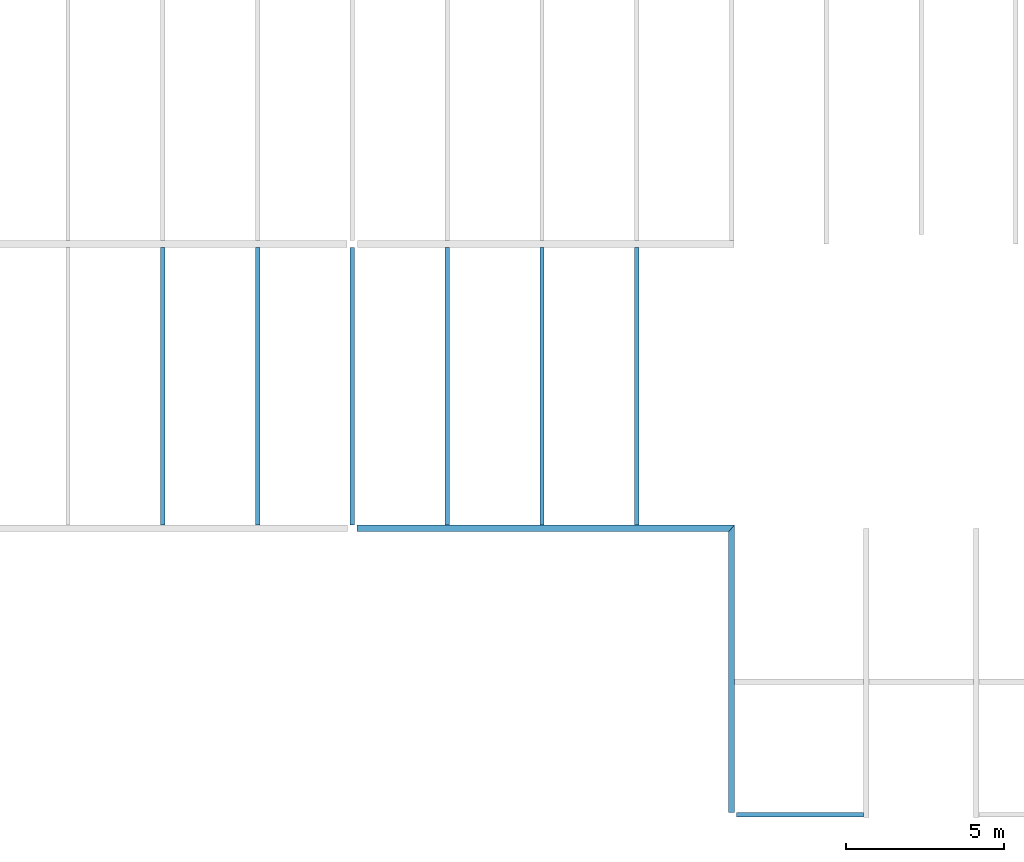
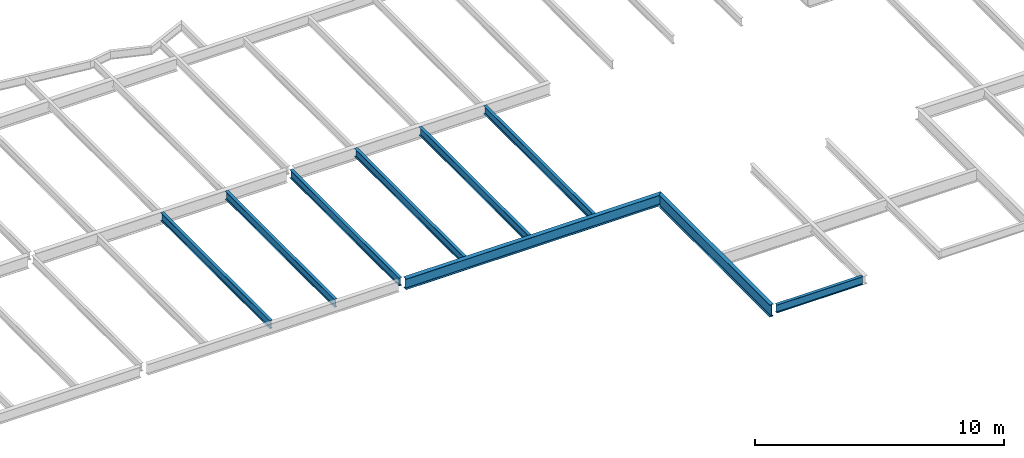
# One storey, part 6 of 21: 9 beams.
"""IFC2X3 building model written with IfcOpenShell, lengths in millimetres."""

from ifc_helpers import new_model, si_unit, origin, place, context, project, spatial, faceted_brep, material, element, save


model = new_model("IFC2X3")

# Units and contexts
context_of_model = context(None, 3, precision=1e-05, world=origin())
ifc_project = project(units=[si_unit("LENGTHUNIT", "METRE", prefix="MILLI")], contexts=[context_of_model])

# Building, storey
building = spatial("IfcBuilding", under=ifc_project, Name="Building", CompositionType="ELEMENT")
storey = spatial("IfcBuildingStorey", under=building, Name="FL3-FRM", CompositionType="ELEMENT")

# Beams
ifc_material_1 = material(Name="A992")
beam_1_placement = place(None, origin())
element("IfcBeam", 1, at=beam_1_placement, inside=storey, material=ifc_material_1, Name="B428", context=context_of_model, shape_type="Brep", body=[
    faceted_brep([(-2930.0, 18104.5, 8474.0), (-3070.0, 18104.5, 8474.0), (-3070.0, 26885.5, 8474.0), (-2930.0, 26885.5, 8474.0), (-3070.0, 18104.5, 8482.8), (-3070.0, 26885.5, 8482.8), (-3013.4, 18104.5, 8482.8), (-3013.4, 26885.5, 8482.8), (-3010.76, 18104.5, 8483.15), (-3010.76, 26885.5, 8483.15), (-3008.3, 18104.5, 8484.17), (-3008.3, 26885.5, 8484.17), (-3006.19, 18104.5, 8485.79), (-3006.19, 26885.5, 8485.79), (-3004.57, 18104.5, 8487.9), (-3004.57, 26885.5, 8487.9), (-3003.55, 18104.5, 8490.36), (-3003.55, 26885.5, 8490.36), (-3003.2, 18104.5, 8493.0), (-3003.2, 26885.5, 8493.0), (-3003.2, 18104.5, 8854.0), (-3003.2, 26885.5, 8854.0), (-3003.55, 18104.5, 8856.64), (-3003.55, 26885.5, 8856.64), (-3004.57, 18104.5, 8859.1), (-3004.57, 26885.5, 8859.1), (-3006.19, 18104.5, 8861.21), (-3006.19, 26885.5, 8861.21), (-3008.3, 18104.5, 8862.83), (-3008.3, 26885.5, 8862.83), (-3010.76, 18104.5, 8863.85), (-3010.76, 26885.5, 8863.85), (-3013.4, 18104.5, 8864.2), (-3013.4, 26885.5, 8864.2), (-3070.0, 18104.5, 8864.2), (-3070.0, 26885.5, 8864.2), (-3070.0, 18104.5, 8873.0), (-3070.0, 26885.5, 8873.0), (-2930.0, 18104.5, 8873.0), (-2930.0, 26885.5, 8873.0), (-2930.0, 18104.5, 8864.2), (-2930.0, 26885.5, 8864.2), (-2986.6, 18104.5, 8864.2), (-2986.6, 26885.5, 8864.2), (-2989.24, 18104.5, 8863.85), (-2989.24, 26885.5, 8863.85), (-2991.7, 18104.5, 8862.83), (-2991.7, 26885.5, 8862.83), (-2993.81, 18104.5, 8861.21), (-2993.81, 26885.5, 8861.21), (-2995.43, 18104.5, 8859.1), (-2995.43, 26885.5, 8859.1), (-2996.45, 18104.5, 8856.64), (-2996.45, 26885.5, 8856.64), (-2996.8, 18104.5, 8854.0), (-2996.8, 26885.5, 8854.0), (-2996.8, 18104.5, 8493.0), (-2996.8, 26885.5, 8493.0), (-2996.45, 18104.5, 8490.36), (-2996.45, 26885.5, 8490.36), (-2995.43, 18104.5, 8487.9), (-2995.43, 26885.5, 8487.9), (-2993.81, 18104.5, 8485.79), (-2993.81, 26885.5, 8485.79), (-2991.7, 18104.5, 8484.17), (-2991.7, 26885.5, 8484.17), (-2989.24, 18104.5, 8483.15), (-2989.24, 26885.5, 8483.15), (-2986.6, 18104.5, 8482.8), (-2986.6, 26885.5, 8482.8), (-2930.0, 18104.5, 8482.8), (-2930.0, 26885.5, 8482.8)], [[[0, 1, 2, 3]], [[1, 4, 5, 2]], [[4, 6, 7, 5]], [[6, 8, 9, 7]], [[8, 10, 11, 9]], [[10, 12, 13, 11]], [[12, 14, 15, 13]], [[14, 16, 17, 15]], [[16, 18, 19, 17]], [[18, 20, 21, 19]], [[20, 22, 23, 21]], [[22, 24, 25, 23]], [[24, 26, 27, 25]], [[26, 28, 29, 27]], [[28, 30, 31, 29]], [[30, 32, 33, 31]], [[32, 34, 35, 33]], [[34, 36, 37, 35]], [[36, 38, 39, 37]], [[38, 40, 41, 39]], [[40, 42, 43, 41]], [[42, 44, 45, 43]], [[44, 46, 47, 45]], [[46, 48, 49, 47]], [[48, 50, 51, 49]], [[50, 52, 53, 51]], [[52, 54, 55, 53]], [[54, 56, 57, 55]], [[56, 58, 59, 57]], [[58, 60, 61, 59]], [[60, 62, 63, 61]], [[62, 64, 65, 63]], [[64, 66, 67, 65]], [[66, 68, 69, 67]], [[68, 70, 71, 69]], [[70, 0, 3, 71]], [[0, 70, 68, 66, 64, 62, 60, 58, 56, 54, 52, 50, 48, 46, 44, 42, 40, 38, 36, 34, 32, 30, 28, 26, 24, 22, 20, 18, 16, 14, 12, 10, 8, 6, 4, 1]], [[3, 2, 5, 7, 9, 11, 13, 15, 17, 19, 21, 23, 25, 27, 29, 31, 33, 35, 37, 39, 41, 43, 45, 47, 49, 51, 53, 55, 57, 59, 61, 63, 65, 67, 69, 71]]]),
])
ifc_material_2 = material(Name="A992")
beam_2_placement = place(None, origin())
element("IfcBeam", 2, at=beam_2_placement, inside=storey, material=ifc_material_2, Name="B429", context=context_of_model, shape_type="Brep", body=[
    faceted_brep([(-5930.0, 18104.5, 8474.0), (-6070.0, 18104.5, 8474.0), (-6070.0, 26885.5, 8474.0), (-5930.0, 26885.5, 8474.0), (-6070.0, 18104.5, 8482.8), (-6070.0, 26885.5, 8482.8), (-6013.4, 18104.5, 8482.8), (-6013.4, 26885.5, 8482.8), (-6010.76, 18104.5, 8483.15), (-6010.76, 26885.5, 8483.15), (-6008.3, 18104.5, 8484.17), (-6008.3, 26885.5, 8484.17), (-6006.19, 18104.5, 8485.79), (-6006.19, 26885.5, 8485.79), (-6004.57, 18104.5, 8487.9), (-6004.57, 26885.5, 8487.9), (-6003.55, 18104.5, 8490.36), (-6003.55, 26885.5, 8490.36), (-6003.2, 18104.5, 8493.0), (-6003.2, 26885.5, 8493.0), (-6003.2, 18104.5, 8854.0), (-6003.2, 26885.5, 8854.0), (-6003.55, 18104.5, 8856.64), (-6003.55, 26885.5, 8856.64), (-6004.57, 18104.5, 8859.1), (-6004.57, 26885.5, 8859.1), (-6006.19, 18104.5, 8861.21), (-6006.19, 26885.5, 8861.21), (-6008.3, 18104.5, 8862.83), (-6008.3, 26885.5, 8862.83), (-6010.76, 18104.5, 8863.85), (-6010.76, 26885.5, 8863.85), (-6013.4, 18104.5, 8864.2), (-6013.4, 26885.5, 8864.2), (-6070.0, 18104.5, 8864.2), (-6070.0, 26885.5, 8864.2), (-6070.0, 18104.5, 8873.0), (-6070.0, 26885.5, 8873.0), (-5930.0, 18104.5, 8873.0), (-5930.0, 26885.5, 8873.0), (-5930.0, 18104.5, 8864.2), (-5930.0, 26885.5, 8864.2), (-5986.6, 18104.5, 8864.2), (-5986.6, 26885.5, 8864.2), (-5989.24, 18104.5, 8863.85), (-5989.24, 26885.5, 8863.85), (-5991.7, 18104.5, 8862.83), (-5991.7, 26885.5, 8862.83), (-5993.81, 18104.5, 8861.21), (-5993.81, 26885.5, 8861.21), (-5995.43, 18104.5, 8859.1), (-5995.43, 26885.5, 8859.1), (-5996.45, 18104.5, 8856.64), (-5996.45, 26885.5, 8856.64), (-5996.8, 18104.5, 8854.0), (-5996.8, 26885.5, 8854.0), (-5996.8, 18104.5, 8493.0), (-5996.8, 26885.5, 8493.0), (-5996.45, 18104.5, 8490.36), (-5996.45, 26885.5, 8490.36), (-5995.43, 18104.5, 8487.9), (-5995.43, 26885.5, 8487.9), (-5993.81, 18104.5, 8485.79), (-5993.81, 26885.5, 8485.79), (-5991.7, 18104.5, 8484.17), (-5991.7, 26885.5, 8484.17), (-5989.24, 18104.5, 8483.15), (-5989.24, 26885.5, 8483.15), (-5986.6, 18104.5, 8482.8), (-5986.6, 26885.5, 8482.8), (-5930.0, 18104.5, 8482.8), (-5930.0, 26885.5, 8482.8)], [[[0, 1, 2, 3]], [[1, 4, 5, 2]], [[4, 6, 7, 5]], [[6, 8, 9, 7]], [[8, 10, 11, 9]], [[10, 12, 13, 11]], [[12, 14, 15, 13]], [[14, 16, 17, 15]], [[16, 18, 19, 17]], [[18, 20, 21, 19]], [[20, 22, 23, 21]], [[22, 24, 25, 23]], [[24, 26, 27, 25]], [[26, 28, 29, 27]], [[28, 30, 31, 29]], [[30, 32, 33, 31]], [[32, 34, 35, 33]], [[34, 36, 37, 35]], [[36, 38, 39, 37]], [[38, 40, 41, 39]], [[40, 42, 43, 41]], [[42, 44, 45, 43]], [[44, 46, 47, 45]], [[46, 48, 49, 47]], [[48, 50, 51, 49]], [[50, 52, 53, 51]], [[52, 54, 55, 53]], [[54, 56, 57, 55]], [[56, 58, 59, 57]], [[58, 60, 61, 59]], [[60, 62, 63, 61]], [[62, 64, 65, 63]], [[64, 66, 67, 65]], [[66, 68, 69, 67]], [[68, 70, 71, 69]], [[70, 0, 3, 71]], [[0, 70, 68, 66, 64, 62, 60, 58, 56, 54, 52, 50, 48, 46, 44, 42, 40, 38, 36, 34, 32, 30, 28, 26, 24, 22, 20, 18, 16, 14, 12, 10, 8, 6, 4, 1]], [[3, 2, 5, 7, 9, 11, 13, 15, 17, 19, 21, 23, 25, 27, 29, 31, 33, 35, 37, 39, 41, 43, 45, 47, 49, 51, 53, 55, 57, 59, 61, 63, 65, 67, 69, 71]]]),
])
ifc_material_3 = material(Name="A992")
beam_3_placement = place(None, origin())
element("IfcBeam", 3, at=beam_3_placement, inside=storey, material=ifc_material_3, Name="B430", context=context_of_model, shape_type="Brep", body=[
    faceted_brep([(-8930.0, 18104.5, 8474.0), (-9070.0, 18104.5, 8474.0), (-9070.0, 26885.5, 8474.0), (-8930.0, 26885.5, 8474.0), (-9070.0, 18104.5, 8482.8), (-9070.0, 26885.5, 8482.8), (-9013.4, 18104.5, 8482.8), (-9013.4, 26885.5, 8482.8), (-9010.76, 18104.5, 8483.15), (-9010.76, 26885.5, 8483.15), (-9008.3, 18104.5, 8484.17), (-9008.3, 26885.5, 8484.17), (-9006.19, 18104.5, 8485.79), (-9006.19, 26885.5, 8485.79), (-9004.57, 18104.5, 8487.9), (-9004.57, 26885.5, 8487.9), (-9003.55, 18104.5, 8490.36), (-9003.55, 26885.5, 8490.36), (-9003.2, 18104.5, 8493.0), (-9003.2, 26885.5, 8493.0), (-9003.2, 18104.5, 8854.0), (-9003.2, 26885.5, 8854.0), (-9003.55, 18104.5, 8856.64), (-9003.55, 26885.5, 8856.64), (-9004.57, 18104.5, 8859.1), (-9004.57, 26885.5, 8859.1), (-9006.19, 18104.5, 8861.21), (-9006.19, 26885.5, 8861.21), (-9008.3, 18104.5, 8862.83), (-9008.3, 26885.5, 8862.83), (-9010.76, 18104.5, 8863.85), (-9010.76, 26885.5, 8863.85), (-9013.4, 18104.5, 8864.2), (-9013.4, 26885.5, 8864.2), (-9070.0, 18104.5, 8864.2), (-9070.0, 26885.5, 8864.2), (-9070.0, 18104.5, 8873.0), (-9070.0, 26885.5, 8873.0), (-8930.0, 18104.5, 8873.0), (-8930.0, 26885.5, 8873.0), (-8930.0, 18104.5, 8864.2), (-8930.0, 26885.5, 8864.2), (-8986.6, 18104.5, 8864.2), (-8986.6, 26885.5, 8864.2), (-8989.24, 18104.5, 8863.85), (-8989.24, 26885.5, 8863.85), (-8991.7, 18104.5, 8862.83), (-8991.7, 26885.5, 8862.83), (-8993.81, 18104.5, 8861.21), (-8993.81, 26885.5, 8861.21), (-8995.43, 18104.5, 8859.1), (-8995.43, 26885.5, 8859.1), (-8996.45, 18104.5, 8856.64), (-8996.45, 26885.5, 8856.64), (-8996.8, 18104.5, 8854.0), (-8996.8, 26885.5, 8854.0), (-8996.8, 18104.5, 8493.0), (-8996.8, 26885.5, 8493.0), (-8996.45, 18104.5, 8490.36), (-8996.45, 26885.5, 8490.36), (-8995.43, 18104.5, 8487.9), (-8995.43, 26885.5, 8487.9), (-8993.81, 18104.5, 8485.79), (-8993.81, 26885.5, 8485.79), (-8991.7, 18104.5, 8484.17), (-8991.7, 26885.5, 8484.17), (-8989.24, 18104.5, 8483.15), (-8989.24, 26885.5, 8483.15), (-8986.6, 18104.5, 8482.8), (-8986.6, 26885.5, 8482.8), (-8930.0, 18104.5, 8482.8), (-8930.0, 26885.5, 8482.8)], [[[0, 1, 2, 3]], [[1, 4, 5, 2]], [[4, 6, 7, 5]], [[6, 8, 9, 7]], [[8, 10, 11, 9]], [[10, 12, 13, 11]], [[12, 14, 15, 13]], [[14, 16, 17, 15]], [[16, 18, 19, 17]], [[18, 20, 21, 19]], [[20, 22, 23, 21]], [[22, 24, 25, 23]], [[24, 26, 27, 25]], [[26, 28, 29, 27]], [[28, 30, 31, 29]], [[30, 32, 33, 31]], [[32, 34, 35, 33]], [[34, 36, 37, 35]], [[36, 38, 39, 37]], [[38, 40, 41, 39]], [[40, 42, 43, 41]], [[42, 44, 45, 43]], [[44, 46, 47, 45]], [[46, 48, 49, 47]], [[48, 50, 51, 49]], [[50, 52, 53, 51]], [[52, 54, 55, 53]], [[54, 56, 57, 55]], [[56, 58, 59, 57]], [[58, 60, 61, 59]], [[60, 62, 63, 61]], [[62, 64, 65, 63]], [[64, 66, 67, 65]], [[66, 68, 69, 67]], [[68, 70, 71, 69]], [[70, 0, 3, 71]], [[0, 70, 68, 66, 64, 62, 60, 58, 56, 54, 52, 50, 48, 46, 44, 42, 40, 38, 36, 34, 32, 30, 28, 26, 24, 22, 20, 18, 16, 14, 12, 10, 8, 6, 4, 1]], [[3, 2, 5, 7, 9, 11, 13, 15, 17, 19, 21, 23, 25, 27, 29, 31, 33, 35, 37, 39, 41, 43, 45, 47, 49, 51, 53, 55, 57, 59, 61, 63, 65, 67, 69, 71]]]),
])
ifc_material_4 = material(Name="A992")
beam_4_placement = place(None, origin())
element("IfcBeam", 4, at=beam_4_placement, inside=storey, material=ifc_material_4, Name="B431", context=context_of_model, shape_type="Brep", body=[
    faceted_brep([(-11930.0, 18104.5, 8474.0), (-12070.0, 18104.5, 8474.0), (-12070.0, 26885.5, 8474.0), (-11930.0, 26885.5, 8474.0), (-12070.0, 18104.5, 8482.8), (-12070.0, 26885.5, 8482.8), (-12013.4, 18104.5, 8482.8), (-12013.4, 26885.5, 8482.8), (-12010.8, 18104.5, 8483.15), (-12010.8, 26885.5, 8483.15), (-12008.3, 18104.5, 8484.17), (-12008.3, 26885.5, 8484.17), (-12006.2, 18104.5, 8485.79), (-12006.2, 26885.5, 8485.79), (-12004.6, 18104.5, 8487.9), (-12004.6, 26885.5, 8487.9), (-12003.5, 18104.5, 8490.36), (-12003.5, 26885.5, 8490.36), (-12003.2, 18104.5, 8493.0), (-12003.2, 26885.5, 8493.0), (-12003.2, 18104.5, 8854.0), (-12003.2, 26885.5, 8854.0), (-12003.5, 18104.5, 8856.64), (-12003.5, 26885.5, 8856.64), (-12004.6, 18104.5, 8859.1), (-12004.6, 26885.5, 8859.1), (-12006.2, 18104.5, 8861.21), (-12006.2, 26885.5, 8861.21), (-12008.3, 18104.5, 8862.83), (-12008.3, 26885.5, 8862.83), (-12010.8, 18104.5, 8863.85), (-12010.8, 26885.5, 8863.85), (-12013.4, 18104.5, 8864.2), (-12013.4, 26885.5, 8864.2), (-12070.0, 18104.5, 8864.2), (-12070.0, 26885.5, 8864.2), (-12070.0, 18104.5, 8873.0), (-12070.0, 26885.5, 8873.0), (-11930.0, 18104.5, 8873.0), (-11930.0, 26885.5, 8873.0), (-11930.0, 18104.5, 8864.2), (-11930.0, 26885.5, 8864.2), (-11986.6, 18104.5, 8864.2), (-11986.6, 26885.5, 8864.2), (-11989.2, 18104.5, 8863.85), (-11989.2, 26885.5, 8863.85), (-11991.7, 18104.5, 8862.83), (-11991.7, 26885.5, 8862.83), (-11993.8, 18104.5, 8861.21), (-11993.8, 26885.5, 8861.21), (-11995.4, 18104.5, 8859.1), (-11995.4, 26885.5, 8859.1), (-11996.5, 18104.5, 8856.64), (-11996.5, 26885.5, 8856.64), (-11996.8, 18104.5, 8854.0), (-11996.8, 26885.5, 8854.0), (-11996.8, 18104.5, 8493.0), (-11996.8, 26885.5, 8493.0), (-11996.5, 18104.5, 8490.36), (-11996.5, 26885.5, 8490.36), (-11995.4, 18104.5, 8487.9), (-11995.4, 26885.5, 8487.9), (-11993.8, 18104.5, 8485.79), (-11993.8, 26885.5, 8485.79), (-11991.7, 18104.5, 8484.17), (-11991.7, 26885.5, 8484.17), (-11989.2, 18104.5, 8483.15), (-11989.2, 26885.5, 8483.15), (-11986.6, 18104.5, 8482.8), (-11986.6, 26885.5, 8482.8), (-11930.0, 18104.5, 8482.8), (-11930.0, 26885.5, 8482.8)], [[[0, 1, 2, 3]], [[1, 4, 5, 2]], [[4, 6, 7, 5]], [[6, 8, 9, 7]], [[8, 10, 11, 9]], [[10, 12, 13, 11]], [[12, 14, 15, 13]], [[14, 16, 17, 15]], [[16, 18, 19, 17]], [[18, 20, 21, 19]], [[20, 22, 23, 21]], [[22, 24, 25, 23]], [[24, 26, 27, 25]], [[26, 28, 29, 27]], [[28, 30, 31, 29]], [[30, 32, 33, 31]], [[32, 34, 35, 33]], [[34, 36, 37, 35]], [[36, 38, 39, 37]], [[38, 40, 41, 39]], [[40, 42, 43, 41]], [[42, 44, 45, 43]], [[44, 46, 47, 45]], [[46, 48, 49, 47]], [[48, 50, 51, 49]], [[50, 52, 53, 51]], [[52, 54, 55, 53]], [[54, 56, 57, 55]], [[56, 58, 59, 57]], [[58, 60, 61, 59]], [[60, 62, 63, 61]], [[62, 64, 65, 63]], [[64, 66, 67, 65]], [[66, 68, 69, 67]], [[68, 70, 71, 69]], [[70, 0, 3, 71]], [[0, 70, 68, 66, 64, 62, 60, 58, 56, 54, 52, 50, 48, 46, 44, 42, 40, 38, 36, 34, 32, 30, 28, 26, 24, 22, 20, 18, 16, 14, 12, 10, 8, 6, 4, 1]], [[3, 2, 5, 7, 9, 11, 13, 15, 17, 19, 21, 23, 25, 27, 29, 31, 33, 35, 37, 39, 41, 43, 45, 47, 49, 51, 53, 55, 57, 59, 61, 63, 65, 67, 69, 71]]]),
])
ifc_material_5 = material(Name="A992")
beam_5_placement = place(None, origin())
element("IfcBeam", 5, at=beam_5_placement, inside=storey, material=ifc_material_5, Name="B432", context=context_of_model, shape_type="Brep", body=[
    faceted_brep([(-14930.0, 18104.5, 8474.0), (-15070.0, 18104.5, 8474.0), (-15070.0, 26885.5, 8474.0), (-14930.0, 26885.5, 8474.0), (-15070.0, 18104.5, 8482.8), (-15070.0, 26885.5, 8482.8), (-15013.4, 18104.5, 8482.8), (-15013.4, 26885.5, 8482.8), (-15010.8, 18104.5, 8483.15), (-15010.8, 26885.5, 8483.15), (-15008.3, 18104.5, 8484.17), (-15008.3, 26885.5, 8484.17), (-15006.2, 18104.5, 8485.79), (-15006.2, 26885.5, 8485.79), (-15004.6, 18104.5, 8487.9), (-15004.6, 26885.5, 8487.9), (-15003.5, 18104.5, 8490.36), (-15003.5, 26885.5, 8490.36), (-15003.2, 18104.5, 8493.0), (-15003.2, 26885.5, 8493.0), (-15003.2, 18104.5, 8854.0), (-15003.2, 26885.5, 8854.0), (-15003.5, 18104.5, 8856.64), (-15003.5, 26885.5, 8856.64), (-15004.6, 18104.5, 8859.1), (-15004.6, 26885.5, 8859.1), (-15006.2, 18104.5, 8861.21), (-15006.2, 26885.5, 8861.21), (-15008.3, 18104.5, 8862.83), (-15008.3, 26885.5, 8862.83), (-15010.8, 18104.5, 8863.85), (-15010.8, 26885.5, 8863.85), (-15013.4, 18104.5, 8864.2), (-15013.4, 26885.5, 8864.2), (-15070.0, 18104.5, 8864.2), (-15070.0, 26885.5, 8864.2), (-15070.0, 18104.5, 8873.0), (-15070.0, 26885.5, 8873.0), (-14930.0, 18104.5, 8873.0), (-14930.0, 26885.5, 8873.0), (-14930.0, 18104.5, 8864.2), (-14930.0, 26885.5, 8864.2), (-14986.6, 18104.5, 8864.2), (-14986.6, 26885.5, 8864.2), (-14989.2, 18104.5, 8863.85), (-14989.2, 26885.5, 8863.85), (-14991.7, 18104.5, 8862.83), (-14991.7, 26885.5, 8862.83), (-14993.8, 18104.5, 8861.21), (-14993.8, 26885.5, 8861.21), (-14995.4, 18104.5, 8859.1), (-14995.4, 26885.5, 8859.1), (-14996.5, 18104.5, 8856.64), (-14996.5, 26885.5, 8856.64), (-14996.8, 18104.5, 8854.0), (-14996.8, 26885.5, 8854.0), (-14996.8, 18104.5, 8493.0), (-14996.8, 26885.5, 8493.0), (-14996.5, 18104.5, 8490.36), (-14996.5, 26885.5, 8490.36), (-14995.4, 18104.5, 8487.9), (-14995.4, 26885.5, 8487.9), (-14993.8, 18104.5, 8485.79), (-14993.8, 26885.5, 8485.79), (-14991.7, 18104.5, 8484.17), (-14991.7, 26885.5, 8484.17), (-14989.2, 18104.5, 8483.15), (-14989.2, 26885.5, 8483.15), (-14986.6, 18104.5, 8482.8), (-14986.6, 26885.5, 8482.8), (-14930.0, 18104.5, 8482.8), (-14930.0, 26885.5, 8482.8)], [[[0, 1, 2, 3]], [[1, 4, 5, 2]], [[4, 6, 7, 5]], [[6, 8, 9, 7]], [[8, 10, 11, 9]], [[10, 12, 13, 11]], [[12, 14, 15, 13]], [[14, 16, 17, 15]], [[16, 18, 19, 17]], [[18, 20, 21, 19]], [[20, 22, 23, 21]], [[22, 24, 25, 23]], [[24, 26, 27, 25]], [[26, 28, 29, 27]], [[28, 30, 31, 29]], [[30, 32, 33, 31]], [[32, 34, 35, 33]], [[34, 36, 37, 35]], [[36, 38, 39, 37]], [[38, 40, 41, 39]], [[40, 42, 43, 41]], [[42, 44, 45, 43]], [[44, 46, 47, 45]], [[46, 48, 49, 47]], [[48, 50, 51, 49]], [[50, 52, 53, 51]], [[52, 54, 55, 53]], [[54, 56, 57, 55]], [[56, 58, 59, 57]], [[58, 60, 61, 59]], [[60, 62, 63, 61]], [[62, 64, 65, 63]], [[64, 66, 67, 65]], [[66, 68, 69, 67]], [[68, 70, 71, 69]], [[70, 0, 3, 71]], [[0, 70, 68, 66, 64, 62, 60, 58, 56, 54, 52, 50, 48, 46, 44, 42, 40, 38, 36, 34, 32, 30, 28, 26, 24, 22, 20, 18, 16, 14, 12, 10, 8, 6, 4, 1]], [[3, 2, 5, 7, 9, 11, 13, 15, 17, 19, 21, 23, 25, 27, 29, 31, 33, 35, 37, 39, 41, 43, 45, 47, 49, 51, 53, 55, 57, 59, 61, 63, 65, 67, 69, 71]]]),
])
ifc_material_6 = material(Name="A992")
beam_6_placement = place(None, origin())
element("IfcBeam", 6, at=beam_6_placement, inside=storey, material=ifc_material_6, Name="B433", context=context_of_model, shape_type="Brep", body=[
    faceted_brep([(-17930.0, 18104.5, 8474.0), (-18070.0, 18104.5, 8474.0), (-18070.0, 26885.5, 8474.0), (-17930.0, 26885.5, 8474.0), (-18070.0, 18104.5, 8482.8), (-18070.0, 26885.5, 8482.8), (-18013.4, 18104.5, 8482.8), (-18013.4, 26885.5, 8482.8), (-18010.8, 18104.5, 8483.15), (-18010.8, 26885.5, 8483.15), (-18008.3, 18104.5, 8484.17), (-18008.3, 26885.5, 8484.17), (-18006.2, 18104.5, 8485.79), (-18006.2, 26885.5, 8485.79), (-18004.6, 18104.5, 8487.9), (-18004.6, 26885.5, 8487.9), (-18003.5, 18104.5, 8490.36), (-18003.5, 26885.5, 8490.36), (-18003.2, 18104.5, 8493.0), (-18003.2, 26885.5, 8493.0), (-18003.2, 18104.5, 8854.0), (-18003.2, 26885.5, 8854.0), (-18003.5, 18104.5, 8856.64), (-18003.5, 26885.5, 8856.64), (-18004.6, 18104.5, 8859.1), (-18004.6, 26885.5, 8859.1), (-18006.2, 18104.5, 8861.21), (-18006.2, 26885.5, 8861.21), (-18008.3, 18104.5, 8862.83), (-18008.3, 26885.5, 8862.83), (-18010.8, 18104.5, 8863.85), (-18010.8, 26885.5, 8863.85), (-18013.4, 18104.5, 8864.2), (-18013.4, 26885.5, 8864.2), (-18070.0, 18104.5, 8864.2), (-18070.0, 26885.5, 8864.2), (-18070.0, 18104.5, 8873.0), (-18070.0, 26885.5, 8873.0), (-17930.0, 18104.5, 8873.0), (-17930.0, 26885.5, 8873.0), (-17930.0, 18104.5, 8864.2), (-17930.0, 26885.5, 8864.2), (-17986.6, 18104.5, 8864.2), (-17986.6, 26885.5, 8864.2), (-17989.2, 18104.5, 8863.85), (-17989.2, 26885.5, 8863.85), (-17991.7, 18104.5, 8862.83), (-17991.7, 26885.5, 8862.83), (-17993.8, 18104.5, 8861.21), (-17993.8, 26885.5, 8861.21), (-17995.4, 18104.5, 8859.1), (-17995.4, 26885.5, 8859.1), (-17996.5, 18104.5, 8856.64), (-17996.5, 26885.5, 8856.64), (-17996.8, 18104.5, 8854.0), (-17996.8, 26885.5, 8854.0), (-17996.8, 18104.5, 8493.0), (-17996.8, 26885.5, 8493.0), (-17996.5, 18104.5, 8490.36), (-17996.5, 26885.5, 8490.36), (-17995.4, 18104.5, 8487.9), (-17995.4, 26885.5, 8487.9), (-17993.8, 18104.5, 8485.79), (-17993.8, 26885.5, 8485.79), (-17991.7, 18104.5, 8484.17), (-17991.7, 26885.5, 8484.17), (-17989.2, 18104.5, 8483.15), (-17989.2, 26885.5, 8483.15), (-17986.6, 18104.5, 8482.8), (-17986.6, 26885.5, 8482.8), (-17930.0, 18104.5, 8482.8), (-17930.0, 26885.5, 8482.8)], [[[0, 1, 2, 3]], [[1, 4, 5, 2]], [[4, 6, 7, 5]], [[6, 8, 9, 7]], [[8, 10, 11, 9]], [[10, 12, 13, 11]], [[12, 14, 15, 13]], [[14, 16, 17, 15]], [[16, 18, 19, 17]], [[18, 20, 21, 19]], [[20, 22, 23, 21]], [[22, 24, 25, 23]], [[24, 26, 27, 25]], [[26, 28, 29, 27]], [[28, 30, 31, 29]], [[30, 32, 33, 31]], [[32, 34, 35, 33]], [[34, 36, 37, 35]], [[36, 38, 39, 37]], [[38, 40, 41, 39]], [[40, 42, 43, 41]], [[42, 44, 45, 43]], [[44, 46, 47, 45]], [[46, 48, 49, 47]], [[48, 50, 51, 49]], [[50, 52, 53, 51]], [[52, 54, 55, 53]], [[54, 56, 57, 55]], [[56, 58, 59, 57]], [[58, 60, 61, 59]], [[60, 62, 63, 61]], [[62, 64, 65, 63]], [[64, 66, 67, 65]], [[66, 68, 69, 67]], [[68, 70, 71, 69]], [[70, 0, 3, 71]], [[0, 70, 68, 66, 64, 62, 60, 58, 56, 54, 52, 50, 48, 46, 44, 42, 40, 38, 36, 34, 32, 30, 28, 26, 24, 22, 20, 18, 16, 14, 12, 10, 8, 6, 4, 1]], [[3, 2, 5, 7, 9, 11, 13, 15, 17, 19, 21, 23, 25, 27, 29, 31, 33, 35, 37, 39, 41, 43, 45, 47, 49, 51, 53, 55, 57, 59, 61, 63, 65, 67, 69, 71]]]),
])
ifc_material_7 = material(Name="A992")
beam_7_placement = place(None, origin())
element("IfcBeam", 7, at=beam_7_placement, inside=storey, material=ifc_material_7, Name="B593", context=context_of_model, shape_type="Brep", body=[
    faceted_brep([(-89.5, 17895.5, 8270.0), (89.5, 18104.5, 8270.0), (89.5, 9004.95, 8270.0), (-89.5, 9004.95, 8270.0), (89.5, 18104.5, 8285.0), (89.5, 9004.95, 8285.0), (20.65, 18024.1, 8285.0), (20.65, 9004.95, 8285.0), (18.5119, 18021.6, 8285.12), (18.487, 9004.95, 8285.16), (16.3939, 18019.1, 8285.58), (16.3678, 9004.95, 8285.62), (14.3612, 18016.8, 8286.37), (14.3357, 9004.95, 8286.37), (12.5005, 18014.6, 8287.35), (12.4328, 9004.95, 8287.41), (10.7318, 18012.5, 8288.65), (10.6963, 9004.95, 8288.71), (9.21391, 18010.8, 8290.21), (9.16288, 9004.95, 8290.25), (7.91695, 18009.2, 8291.88), (7.86372, 9004.95, 8291.98), (6.83082, 18008.0, 8293.84), (6.82368, 9004.95, 8293.89), (6.11939, 18007.1, 8295.88), (6.06628, 9004.95, 8295.92), (5.66647, 18006.6, 8298.0), (5.6055, 9004.95, 8298.04), (5.45, 18006.4, 8300.2), (5.45, 9004.95, 8300.2), (5.45, 18006.4, 8842.8), (5.45, 9004.95, 8842.8), (5.66647, 18006.6, 8845.0), (5.6055, 9004.95, 8844.96), (6.11939, 18007.1, 8847.12), (6.06628, 9004.95, 8847.08), (6.83082, 18008.0, 8849.16), (6.82368, 9004.95, 8849.11), (7.91695, 18009.2, 8851.12), (7.86372, 9004.95, 8851.02), (9.21391, 18010.8, 8852.79), (9.16288, 9004.95, 8852.75), (10.7318, 18012.5, 8854.35), (10.6963, 9004.95, 8854.29), (12.5005, 18014.6, 8855.65), (12.4328, 9004.95, 8855.59), (14.3612, 18016.8, 8856.63), (14.3357, 9004.95, 8856.63), (16.3939, 18019.1, 8857.42), (16.3678, 9004.95, 8857.38), (18.5119, 18021.6, 8857.88), (18.487, 9004.95, 8857.84), (20.65, 18024.1, 8858.0), (20.65, 9004.95, 8858.0), (89.5, 18104.5, 8858.0), (89.5, 9004.95, 8858.0), (89.5, 18104.5, 8873.0), (89.5, 9004.95, 8873.0), (-89.5, 17895.5, 8873.0), (-89.5, 9004.95, 8873.0), (-89.5, 17895.5, 8858.0), (-89.5, 9004.95, 8858.0), (-20.65, 17975.9, 8858.0), (-20.65, 9004.95, 8858.0), (-18.5119, 17978.4, 8857.88), (-18.487, 9004.95, 8857.84), (-16.3939, 17980.9, 8857.42), (-16.3678, 9004.95, 8857.38), (-14.3612, 17983.2, 8856.63), (-14.3357, 9004.95, 8856.63), (-12.5005, 17985.4, 8855.65), (-12.4328, 9004.95, 8855.59), (-10.7318, 17987.5, 8854.35), (-10.6963, 9004.95, 8854.29), (-9.21391, 17989.2, 8852.79), (-9.16288, 9004.95, 8852.75), (-7.91695, 17990.8, 8851.12), (-7.86372, 9004.95, 8851.02), (-6.83082, 17992.0, 8849.16), (-6.82368, 9004.95, 8849.11), (-6.11939, 17992.9, 8847.12), (-6.06628, 9004.95, 8847.08), (-5.66647, 17993.4, 8845.0), (-5.6055, 9004.95, 8844.96), (-5.45, 17993.6, 8842.8), (-5.45, 9004.95, 8842.8), (-5.45, 17993.6, 8300.2), (-5.45, 9004.95, 8300.2), (-5.66647, 17993.4, 8298.0), (-5.6055, 9004.95, 8298.04), (-6.11939, 17992.9, 8295.88), (-6.06628, 9004.95, 8295.92), (-6.83082, 17992.0, 8293.84), (-6.82368, 9004.95, 8293.89), (-7.91695, 17990.8, 8291.88), (-7.86372, 9004.95, 8291.98), (-9.21391, 17989.2, 8290.21), (-9.16288, 9004.95, 8290.25), (-10.7318, 17987.5, 8288.65), (-10.6963, 9004.95, 8288.71), (-12.5005, 17985.4, 8287.35), (-12.4328, 9004.95, 8287.41), (-14.3612, 17983.2, 8286.37), (-14.3357, 9004.95, 8286.37), (-16.3939, 17980.9, 8285.58), (-16.3678, 9004.95, 8285.62), (-18.5119, 17978.4, 8285.12), (-18.487, 9004.95, 8285.16), (-20.65, 17975.9, 8285.0), (-20.65, 9004.95, 8285.0), (-89.5, 17895.5, 8285.0), (-89.5, 9004.95, 8285.0)], [[[0, 1, 2, 3]], [[1, 4, 5, 2]], [[4, 6, 7, 5]], [[6, 8, 9, 7]], [[8, 10, 11, 9]], [[10, 12, 13, 11]], [[12, 14, 15, 13]], [[14, 16, 17, 15]], [[16, 18, 19, 17]], [[18, 20, 21, 19]], [[20, 22, 23, 21]], [[22, 24, 25, 23]], [[24, 26, 27, 25]], [[26, 28, 29, 27]], [[28, 30, 31, 29]], [[30, 32, 33, 31]], [[32, 34, 35, 33]], [[34, 36, 37, 35]], [[36, 38, 39, 37]], [[38, 40, 41, 39]], [[40, 42, 43, 41]], [[42, 44, 45, 43]], [[44, 46, 47, 45]], [[46, 48, 49, 47]], [[48, 50, 51, 49]], [[50, 52, 53, 51]], [[52, 54, 55, 53]], [[54, 56, 57, 55]], [[56, 58, 59, 57]], [[58, 60, 61, 59]], [[60, 62, 63, 61]], [[62, 64, 65, 63]], [[64, 66, 67, 65]], [[66, 68, 69, 67]], [[68, 70, 71, 69]], [[70, 72, 73, 71]], [[72, 74, 75, 73]], [[74, 76, 77, 75]], [[76, 78, 79, 77]], [[78, 80, 81, 79]], [[80, 82, 83, 81]], [[82, 84, 85, 83]], [[84, 86, 87, 85]], [[86, 88, 89, 87]], [[88, 90, 91, 89]], [[90, 92, 93, 91]], [[92, 94, 95, 93]], [[94, 96, 97, 95]], [[96, 98, 99, 97]], [[98, 100, 101, 99]], [[100, 102, 103, 101]], [[102, 104, 105, 103]], [[104, 106, 107, 105]], [[106, 108, 109, 107]], [[108, 110, 111, 109]], [[110, 0, 3, 111]], [[0, 110, 108, 106, 104, 102, 100, 98, 96, 94, 92, 90, 88, 86, 84, 82, 80, 78, 76, 74, 72, 70, 68, 66, 64, 62, 60, 58, 56, 54, 52, 50, 48, 46, 44, 42, 40, 38, 36, 34, 32, 30, 28, 26, 24, 22, 20, 18, 16, 14, 12, 10, 8, 6, 4, 1]], [[3, 2, 5, 7, 9, 11, 13, 15, 17, 19, 21, 23, 25, 27, 29, 31, 33, 35, 37, 39, 41, 43, 45, 47, 49, 51, 53, 55, 57, 59, 61, 63, 65, 67, 69, 71, 73, 75, 77, 79, 81, 83, 85, 87, 89, 91, 93, 95, 97, 99, 101, 103, 105, 107, 109, 111]]]),
])
ifc_material_8 = material(Name="A992")
beam_8_placement = place(None, origin())
element("IfcBeam", 8, at=beam_8_placement, inside=storey, material=ifc_material_8, Name="B758", context=context_of_model, shape_type="Brep", body=[
    faceted_brep([(-11846.0, 17895.5, 8345.0), (-11846.0, 18104.5, 8345.0), (89.5, 18104.5, 8345.0), (-89.5, 17895.5, 8345.0), (-11846.0, 18104.5, 8358.3), (89.5, 18104.5, 8358.3), (-11846.0, 18017.4, 8358.3), (14.9452, 18017.4, 8358.3), (-11846.0, 18015.6, 8358.43), (13.41, 18015.7, 8358.41), (-11846.0, 18013.9, 8358.81), (11.894, 18013.9, 8358.79), (-11846.0, 18012.2, 8359.45), (10.4398, 18012.2, 8359.44), (-11846.0, 18010.6, 8360.32), (9.09833, 18010.6, 8360.28), (-11846.0, 18009.1, 8361.4), (7.83895, 18009.2, 8361.37), (-11846.0, 18007.9, 8362.68), (6.74994, 18007.9, 8362.66), (-11846.0, 18006.8, 8364.13), (5.82077, 18006.8, 8364.08), (-11846.0, 18005.9, 8365.72), (5.05428, 18005.9, 8365.7), (-11846.0, 18005.3, 8367.42), (4.53222, 18005.3, 8367.4), (-11846.0, 18004.9, 8369.19), (4.20582, 18004.9, 8369.17), (-11846.0, 18004.7, 8371.0), (4.06818, 18004.8, 8371.0), (-11846.0, 18004.8, 8847.0), (4.06818, 18004.8, 8847.0), (-11846.0, 18004.9, 8848.81), (4.20582, 18004.9, 8848.83), (-11846.0, 18005.3, 8850.58), (4.53222, 18005.3, 8850.6), (-11846.0, 18005.9, 8852.28), (5.05428, 18005.9, 8852.3), (-11846.0, 18006.8, 8853.87), (5.82077, 18006.8, 8853.92), (-11846.0, 18007.9, 8855.32), (6.74994, 18007.9, 8855.34), (-11846.0, 18009.1, 8856.6), (7.83895, 18009.2, 8856.63), (-11846.0, 18010.6, 8857.68), (9.09833, 18010.6, 8857.72), (-11846.0, 18012.2, 8858.55), (10.4398, 18012.2, 8858.56), (-11846.0, 18013.9, 8859.19), (11.894, 18013.9, 8859.21), (-11846.0, 18015.6, 8859.57), (13.41, 18015.7, 8859.59), (-11846.0, 18017.4, 8859.7), (14.9452, 18017.4, 8859.7), (-11846.0, 18104.5, 8859.7), (89.5, 18104.5, 8859.7), (-11846.0, 18104.5, 8873.0), (89.5, 18104.5, 8873.0), (-11846.0, 17895.5, 8873.0), (-89.5, 17895.5, 8873.0), (-11846.0, 17895.5, 8859.7), (-89.5, 17895.5, 8859.7), (-11846.0, 17982.6, 8859.7), (-14.9452, 17982.6, 8859.7), (-11846.0, 17984.4, 8859.57), (-13.41, 17984.3, 8859.59), (-11846.0, 17986.1, 8859.19), (-11.894, 17986.1, 8859.21), (-11846.0, 17987.8, 8858.55), (-10.4398, 17987.8, 8858.56), (-11846.0, 17989.4, 8857.68), (-9.09833, 17989.4, 8857.72), (-11846.0, 17990.9, 8856.6), (-7.83895, 17990.8, 8856.63), (-11846.0, 17992.1, 8855.32), (-6.74994, 17992.1, 8855.34), (-11846.0, 17993.2, 8853.87), (-5.82077, 17993.2, 8853.92), (-11846.0, 17994.1, 8852.28), (-5.05428, 17994.1, 8852.3), (-11846.0, 17994.7, 8850.58), (-4.53222, 17994.7, 8850.6), (-11846.0, 17995.1, 8848.81), (-4.20582, 17995.1, 8848.83), (-11846.0, 17995.3, 8847.0), (-4.06818, 17995.3, 8847.0), (-11846.0, 17995.3, 8371.0), (-4.06818, 17995.3, 8371.0), (-11846.0, 17995.1, 8369.19), (-4.20582, 17995.1, 8369.17), (-11846.0, 17994.7, 8367.42), (-4.53222, 17994.7, 8367.4), (-11846.0, 17994.1, 8365.72), (-5.05428, 17994.1, 8365.7), (-11846.0, 17993.2, 8364.13), (-5.82077, 17993.2, 8364.08), (-11846.0, 17992.1, 8362.68), (-6.74994, 17992.1, 8362.66), (-11846.0, 17990.9, 8361.4), (-7.83895, 17990.8, 8361.37), (-11846.0, 17989.4, 8360.32), (-9.09833, 17989.4, 8360.28), (-11846.0, 17987.8, 8359.45), (-10.4398, 17987.8, 8359.44), (-11846.0, 17986.1, 8358.81), (-11.894, 17986.1, 8358.79), (-11846.0, 17984.4, 8358.43), (-13.41, 17984.3, 8358.41), (-11846.0, 17982.6, 8358.3), (-14.9452, 17982.6, 8358.3), (-11846.0, 17895.5, 8358.3), (-89.5, 17895.5, 8358.3)], [[[0, 1, 2, 3]], [[1, 4, 5, 2]], [[4, 6, 7, 5]], [[6, 8, 9, 7]], [[8, 10, 11, 9]], [[10, 12, 13, 11]], [[12, 14, 15, 13]], [[14, 16, 17, 15]], [[16, 18, 19, 17]], [[18, 20, 21, 19]], [[20, 22, 23, 21]], [[22, 24, 25, 23]], [[24, 26, 27, 25]], [[26, 28, 29, 27]], [[28, 30, 31, 29]], [[30, 32, 33, 31]], [[32, 34, 35, 33]], [[34, 36, 37, 35]], [[36, 38, 39, 37]], [[38, 40, 41, 39]], [[40, 42, 43, 41]], [[42, 44, 45, 43]], [[44, 46, 47, 45]], [[46, 48, 49, 47]], [[48, 50, 51, 49]], [[50, 52, 53, 51]], [[52, 54, 55, 53]], [[54, 56, 57, 55]], [[56, 58, 59, 57]], [[58, 60, 61, 59]], [[60, 62, 63, 61]], [[62, 64, 65, 63]], [[64, 66, 67, 65]], [[66, 68, 69, 67]], [[68, 70, 71, 69]], [[70, 72, 73, 71]], [[72, 74, 75, 73]], [[74, 76, 77, 75]], [[76, 78, 79, 77]], [[78, 80, 81, 79]], [[80, 82, 83, 81]], [[82, 84, 85, 83]], [[84, 86, 87, 85]], [[86, 88, 89, 87]], [[88, 90, 91, 89]], [[90, 92, 93, 91]], [[92, 94, 95, 93]], [[94, 96, 97, 95]], [[96, 98, 99, 97]], [[98, 100, 101, 99]], [[100, 102, 103, 101]], [[102, 104, 105, 103]], [[104, 106, 107, 105]], [[106, 108, 109, 107]], [[108, 110, 111, 109]], [[110, 0, 3, 111]], [[0, 110, 108, 106, 104, 102, 100, 98, 96, 94, 92, 90, 88, 86, 84, 82, 80, 78, 76, 74, 72, 70, 68, 66, 64, 62, 60, 58, 56, 54, 52, 50, 48, 46, 44, 42, 40, 38, 36, 34, 32, 30, 28, 26, 24, 22, 20, 18, 16, 14, 12, 10, 8, 6, 4, 1]], [[3, 2, 5, 7, 9, 11, 13, 15, 17, 19, 21, 23, 25, 27, 29, 31, 33, 35, 37, 39, 41, 43, 45, 47, 49, 51, 53, 55, 57, 59, 61, 63, 65, 67, 69, 71, 73, 75, 77, 79, 81, 83, 85, 87, 89, 91, 93, 95, 97, 99, 101, 103, 105, 107, 109, 111]]]),
])
ifc_material_9 = material(Name="A992")
beam_9_placement = place(None, origin())
element("IfcBeam", 9, at=beam_9_placement, inside=storey, material=ifc_material_9, Name="B1242", context=context_of_model, shape_type="Brep", body=[
    faceted_brep([(4173.2, 9000.0, 8474.0), (4173.2, 8860.0, 8474.0), (154.0, 8860.0, 8474.0), (154.0, 9000.0, 8474.0), (4173.2, 8860.0, 8482.8), (154.0, 8860.0, 8482.8), (4173.2, 8916.6, 8482.8), (154.0, 8916.6, 8482.8), (4173.2, 8919.24, 8483.15), (154.0, 8919.24, 8483.15), (4173.2, 8921.7, 8484.17), (154.0, 8921.7, 8484.17), (4173.2, 8923.81, 8485.79), (154.0, 8923.81, 8485.79), (4173.2, 8925.43, 8487.9), (154.0, 8925.43, 8487.9), (4173.2, 8926.45, 8490.36), (154.0, 8926.45, 8490.36), (4173.2, 8926.8, 8493.0), (154.0, 8926.8, 8493.0), (4173.2, 8926.8, 8854.0), (154.0, 8926.8, 8854.0), (4173.2, 8926.45, 8856.64), (154.0, 8926.45, 8856.64), (4173.2, 8925.43, 8859.1), (154.0, 8925.43, 8859.1), (4173.2, 8923.81, 8861.21), (154.0, 8923.81, 8861.21), (4173.2, 8921.7, 8862.83), (154.0, 8921.7, 8862.83), (4173.2, 8919.24, 8863.85), (154.0, 8919.24, 8863.85), (4173.2, 8916.6, 8864.2), (154.0, 8916.6, 8864.2), (4173.2, 8860.0, 8864.2), (154.0, 8860.0, 8864.2), (4173.2, 8860.0, 8873.0), (154.0, 8860.0, 8873.0), (4173.2, 9000.0, 8873.0), (154.0, 9000.0, 8873.0), (4173.2, 9000.0, 8864.2), (154.0, 9000.0, 8864.2), (4173.2, 8943.4, 8864.2), (154.0, 8943.4, 8864.2), (4173.2, 8940.76, 8863.85), (154.0, 8940.76, 8863.85), (4173.2, 8938.3, 8862.83), (154.0, 8938.3, 8862.83), (4173.2, 8936.19, 8861.21), (154.0, 8936.19, 8861.21), (4173.2, 8934.57, 8859.1), (154.0, 8934.57, 8859.1), (4173.2, 8933.55, 8856.64), (154.0, 8933.55, 8856.64), (4173.2, 8933.2, 8854.0), (154.0, 8933.2, 8854.0), (4173.2, 8933.2, 8493.0), (154.0, 8933.2, 8493.0), (4173.2, 8933.55, 8490.36), (154.0, 8933.55, 8490.36), (4173.2, 8934.57, 8487.9), (154.0, 8934.57, 8487.9), (4173.2, 8936.19, 8485.79), (154.0, 8936.19, 8485.79), (4173.2, 8938.3, 8484.17), (154.0, 8938.3, 8484.17), (4173.2, 8940.76, 8483.15), (154.0, 8940.76, 8483.15), (4173.2, 8943.4, 8482.8), (154.0, 8943.4, 8482.8), (4173.2, 9000.0, 8482.8), (154.0, 9000.0, 8482.8)], [[[0, 1, 2, 3]], [[1, 4, 5, 2]], [[4, 6, 7, 5]], [[6, 8, 9, 7]], [[8, 10, 11, 9]], [[10, 12, 13, 11]], [[12, 14, 15, 13]], [[14, 16, 17, 15]], [[16, 18, 19, 17]], [[18, 20, 21, 19]], [[20, 22, 23, 21]], [[22, 24, 25, 23]], [[24, 26, 27, 25]], [[26, 28, 29, 27]], [[28, 30, 31, 29]], [[30, 32, 33, 31]], [[32, 34, 35, 33]], [[34, 36, 37, 35]], [[36, 38, 39, 37]], [[38, 40, 41, 39]], [[40, 42, 43, 41]], [[42, 44, 45, 43]], [[44, 46, 47, 45]], [[46, 48, 49, 47]], [[48, 50, 51, 49]], [[50, 52, 53, 51]], [[52, 54, 55, 53]], [[54, 56, 57, 55]], [[56, 58, 59, 57]], [[58, 60, 61, 59]], [[60, 62, 63, 61]], [[62, 64, 65, 63]], [[64, 66, 67, 65]], [[66, 68, 69, 67]], [[68, 70, 71, 69]], [[70, 0, 3, 71]], [[0, 70, 68, 66, 64, 62, 60, 58, 56, 54, 52, 50, 48, 46, 44, 42, 40, 38, 36, 34, 32, 30, 28, 26, 24, 22, 20, 18, 16, 14, 12, 10, 8, 6, 4, 1]], [[3, 2, 5, 7, 9, 11, 13, 15, 17, 19, 21, 23, 25, 27, 29, 31, 33, 35, 37, 39, 41, 43, 45, 47, 49, 51, 53, 55, 57, 59, 61, 63, 65, 67, 69, 71]]]),
])

save(model, "model.ifc")
